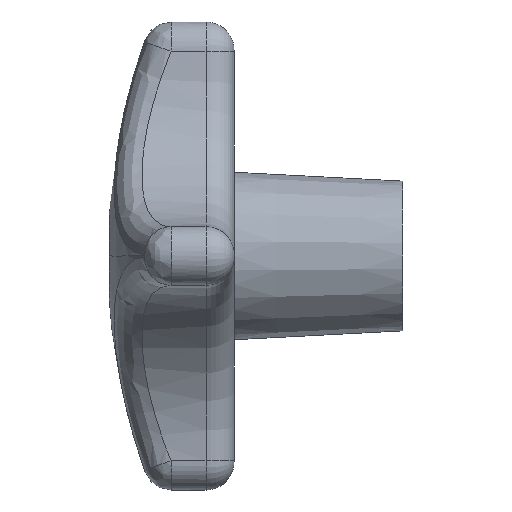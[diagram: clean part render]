
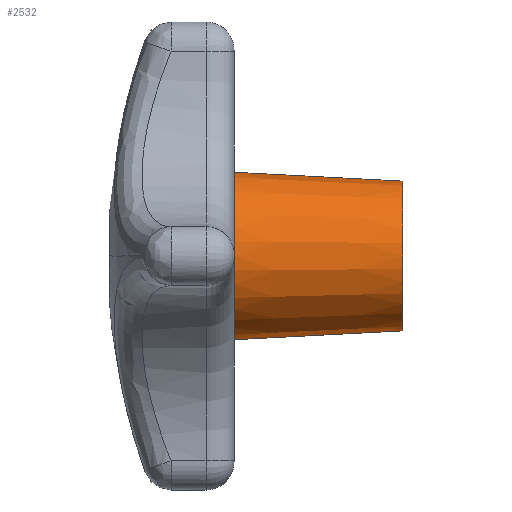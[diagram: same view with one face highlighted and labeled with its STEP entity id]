
A CAD part, left-side view. The second image highlights one B-rep face of the part: STEP entity #2532.
In plain terms, the highlighted conical face has half-angle 3 degrees and reference radius 16 mm.
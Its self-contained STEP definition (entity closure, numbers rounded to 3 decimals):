
#832 = CARTESIAN_POINT ( 'NONE',  ( 0., -36., -16. ) ) ;
#833 = CARTESIAN_POINT ( 'NONE',  ( 0., -36., 16. ) ) ;
#1657 = CARTESIAN_POINT ( 'NONE',  ( 0., 0., 17.887 ) ) ;
#1664 = DIRECTION ( 'NONE',  ( 0., 0.999, -0.052 ) ) ;
#1665 = VECTOR ( 'NONE', #1664, 1000. ) ;
#1666 = CARTESIAN_POINT ( 'NONE',  ( 0., -36., -16. ) ) ;
#1667 = LINE ( 'NONE', #1666, #1665 ) ;
#1668 = CARTESIAN_POINT ( 'NONE',  ( 0., 0., -17.887 ) ) ;
#1674 = DIRECTION ( 'NONE',  ( 0., 0.999, 0.052 ) ) ;
#1675 = VECTOR ( 'NONE', #1674, 1000. ) ;
#1676 = CARTESIAN_POINT ( 'NONE',  ( 0., -36., 16. ) ) ;
#1677 = LINE ( 'NONE', #1676, #1675 ) ;
#2532 = ADVANCED_FACE ( 'NONE', ( #4068 ), #4067, .T. ) ;
#2545 = EDGE_CURVE ( 'NONE', #2981, #2987, #4131, .T. ) ;
#2831 = ORIENTED_EDGE ( 'NONE', *, *, #2982, .F. ) ;
#2832 = ORIENTED_EDGE ( 'NONE', *, *, #2833, .T. ) ;
#2833 = EDGE_CURVE ( 'NONE', #2996, #2995, #4452, .T. ) ;
#2834 = EDGE_LOOP ( 'NONE', ( #2831, #2832, #2835, #2837 ) ) ;
#2835 = ORIENTED_EDGE ( 'NONE', *, *, #2976, .T. ) ;
#2837 = ORIENTED_EDGE ( 'NONE', *, *, #2545, .F. ) ;
#2976 = EDGE_CURVE ( 'NONE', #2995, #2987, #1677, .T. ) ;
#2981 = VERTEX_POINT ( 'NONE', #1668 ) ;
#2982 = EDGE_CURVE ( 'NONE', #2996, #2981, #1667, .T. ) ;
#2987 = VERTEX_POINT ( 'NONE', #1657 ) ;
#2995 = VERTEX_POINT ( 'NONE', #833 ) ;
#2996 = VERTEX_POINT ( 'NONE', #832 ) ;
#4063 = DIRECTION ( 'NONE',  ( 0., 0., 1. ) ) ;
#4064 = DIRECTION ( 'NONE',  ( 0., 1., 0. ) ) ;
#4065 = CARTESIAN_POINT ( 'NONE',  ( 0., -36., 0. ) ) ;
#4066 = AXIS2_PLACEMENT_3D ( 'NONE', #4065, #4064, #4063 ) ;
#4067 = CONICAL_SURFACE ( 'NONE', #4066, 16., 0.052 ) ;
#4068 = FACE_OUTER_BOUND ( 'NONE', #2834, .T. ) ;
#4127 = DIRECTION ( 'NONE',  ( 0., 0., 1. ) ) ;
#4128 = DIRECTION ( 'NONE',  ( 0., 1., 0. ) ) ;
#4129 = CARTESIAN_POINT ( 'NONE',  ( 0., 0., 0. ) ) ;
#4130 = AXIS2_PLACEMENT_3D ( 'NONE', #4129, #4128, #4127 ) ;
#4131 = CIRCLE ( 'NONE', #4130, 17.887 ) ;
#4448 = DIRECTION ( 'NONE',  ( 0., 0., 1. ) ) ;
#4449 = DIRECTION ( 'NONE',  ( 0., 1., 0. ) ) ;
#4450 = CARTESIAN_POINT ( 'NONE',  ( 0., -36., 0. ) ) ;
#4451 = AXIS2_PLACEMENT_3D ( 'NONE', #4450, #4449, #4448 ) ;
#4452 = CIRCLE ( 'NONE', #4451, 16. ) ;
